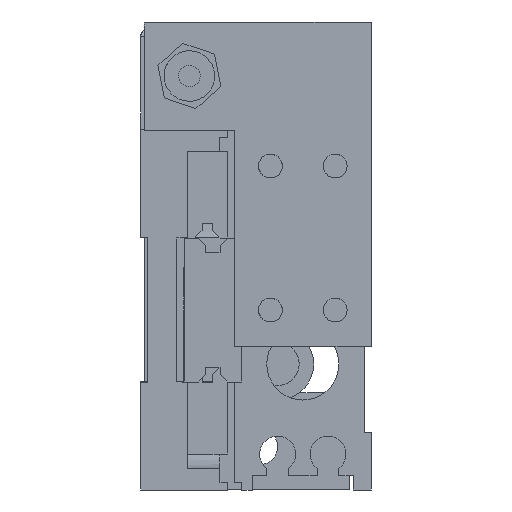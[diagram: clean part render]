
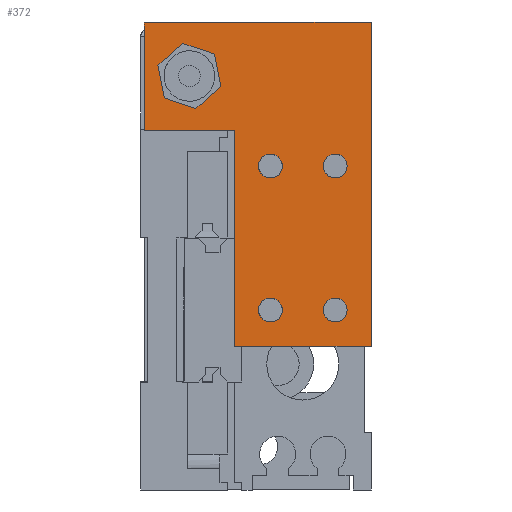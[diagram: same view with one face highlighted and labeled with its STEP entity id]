
A CAD part, left-side view. The second image highlights one B-rep face of the part: STEP entity #372.
In plain terms, the highlighted planar face has unit normal (-1, 0, 0) as drawn and (0, 0, 1) by its records, which use the part's own axes.
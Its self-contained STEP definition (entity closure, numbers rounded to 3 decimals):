
#212 = VERTEX_POINT ( 'NONE', #15446 ) ;
#227 = VERTEX_POINT ( 'NONE', #15495 ) ;
#233 = VERTEX_POINT ( 'NONE', #15484 ) ;
#273 = VERTEX_POINT ( 'NONE', #15533 ) ;
#274 = VERTEX_POINT ( 'NONE', #15540 ) ;
#276 = EDGE_CURVE ( 'NONE', #4628, #274, #15594, .T. ) ;
#277 = VERTEX_POINT ( 'NONE', #15592 ) ;
#280 = VERTEX_POINT ( 'NONE', #15580 ) ;
#282 = EDGE_CURVE ( 'NONE', #233, #227, #15584, .T. ) ;
#286 = EDGE_CURVE ( 'NONE', #273, #289, #15565, .T. ) ;
#289 = VERTEX_POINT ( 'NONE', #15613 ) ;
#304 = VERTEX_POINT ( 'NONE', #15685 ) ;
#308 = EDGE_CURVE ( 'NONE', #280, #277, #15683, .T. ) ;
#328 = VERTEX_POINT ( 'NONE', #15721 ) ;
#330 = VERTEX_POINT ( 'NONE', #15686 ) ;
#339 = EDGE_CURVE ( 'NONE', #304, #328, #15694, .T. ) ;
#342 = EDGE_CURVE ( 'NONE', #328, #330, #15739, .T. ) ;
#347 = EDGE_CURVE ( 'NONE', #212, #304, #15735, .T. ) ;
#356 = ORIENTED_EDGE ( 'NONE', *, *, #308, .F. ) ;
#364 = EDGE_CURVE ( 'NONE', #330, #365, #15758, .T. ) ;
#365 = VERTEX_POINT ( 'NONE', #15754 ) ;
#369 = EDGE_CURVE ( 'NONE', #365, #371, #15800, .T. ) ;
#371 = VERTEX_POINT ( 'NONE', #15797 ) ;
#372 = ADVANCED_FACE ( 'NONE', ( #15808, #15795, #15796, #15760, #15803, #15877 ), #15770, .T. ) ;
#373 = ORIENTED_EDGE ( 'NONE', *, *, #393, .F. ) ;
#374 = ORIENTED_EDGE ( 'NONE', *, *, #4699, .F. ) ;
#386 = ORIENTED_EDGE ( 'NONE', *, *, #276, .F. ) ;
#391 = EDGE_LOOP ( 'NONE', ( #398, #400 ) ) ;
#392 = EDGE_LOOP ( 'NONE', ( #411, #386 ) ) ;
#393 = EDGE_CURVE ( 'NONE', #4606, #4704, #15914, .T. ) ;
#396 = EDGE_LOOP ( 'NONE', ( #413, #397, #407, #412, #417, #401 ) ) ;
#397 = ORIENTED_EDGE ( 'NONE', *, *, #339, .T. ) ;
#398 = ORIENTED_EDGE ( 'NONE', *, *, #416, .F. ) ;
#400 = ORIENTED_EDGE ( 'NONE', *, *, #286, .F. ) ;
#401 = ORIENTED_EDGE ( 'NONE', *, *, #402, .T. ) ;
#402 = EDGE_CURVE ( 'NONE', #371, #212, #15916, .T. ) ;
#403 = EDGE_LOOP ( 'NONE', ( #415, #410 ) ) ;
#404 = ORIENTED_EDGE ( 'NONE', *, *, #421, .F. ) ;
#405 = EDGE_LOOP ( 'NONE', ( #373, #374 ) ) ;
#406 = EDGE_CURVE ( 'NONE', #274, #4628, #15917, .T. ) ;
#407 = ORIENTED_EDGE ( 'NONE', *, *, #342, .T. ) ;
#409 = EDGE_CURVE ( 'NONE', #227, #233, #15895, .T. ) ;
#410 = ORIENTED_EDGE ( 'NONE', *, *, #282, .F. ) ;
#411 = ORIENTED_EDGE ( 'NONE', *, *, #406, .F. ) ;
#412 = ORIENTED_EDGE ( 'NONE', *, *, #364, .T. ) ;
#413 = ORIENTED_EDGE ( 'NONE', *, *, #347, .T. ) ;
#415 = ORIENTED_EDGE ( 'NONE', *, *, #409, .F. ) ;
#416 = EDGE_CURVE ( 'NONE', #289, #273, #15604, .T. ) ;
#417 = ORIENTED_EDGE ( 'NONE', *, *, #369, .T. ) ;
#421 = EDGE_CURVE ( 'NONE', #277, #280, #15957, .T. ) ;
#422 = EDGE_LOOP ( 'NONE', ( #404, #356 ) ) ;
#4606 = VERTEX_POINT ( 'NONE', #29159 ) ;
#4628 = VERTEX_POINT ( 'NONE', #29199 ) ;
#4699 = EDGE_CURVE ( 'NONE', #4704, #4606, #29347, .T. ) ;
#4704 = VERTEX_POINT ( 'NONE', #29359 ) ;
#15065 = DIRECTION ( 'NONE',  ( 0., 0., 1. ) ) ;
#15367 = DIRECTION ( 'NONE',  ( 1., 0., 0. ) ) ;
#15446 = CARTESIAN_POINT ( 'NONE',  ( -15., 9.5, 8. ) ) ;
#15484 = CARTESIAN_POINT ( 'NONE',  ( -11.65, -4.5, 8. ) ) ;
#15495 = CARTESIAN_POINT ( 'NONE',  ( -8.35, -4.5, 8. ) ) ;
#15533 = CARTESIAN_POINT ( 'NONE',  ( -11.65, 4.5, 8. ) ) ;
#15540 = CARTESIAN_POINT ( 'NONE',  ( 11.65, -4.5, 8. ) ) ;
#15562 = DIRECTION ( 'NONE',  ( 1., 0., 0. ) ) ;
#15563 = DIRECTION ( 'NONE',  ( 0., 0., 1. ) ) ;
#15564 = AXIS2_PLACEMENT_3D ( 'NONE', #15586, #15563, #15562 ) ;
#15565 = CIRCLE ( 'NONE', #15564, 1.65 ) ;
#15571 = DIRECTION ( 'NONE',  ( 1., 0., 0. ) ) ;
#15572 = DIRECTION ( 'NONE',  ( 0., 0., 1. ) ) ;
#15573 = CARTESIAN_POINT ( 'NONE',  ( -10., -4.5, 8. ) ) ;
#15580 = CARTESIAN_POINT ( 'NONE',  ( 8.35, 4.5, 8. ) ) ;
#15584 = CIRCLE ( 'NONE', #15593, 1.65 ) ;
#15586 = CARTESIAN_POINT ( 'NONE',  ( -10., 4.5, 8. ) ) ;
#15588 = DIRECTION ( 'NONE',  ( 1., 0., 0. ) ) ;
#15589 = DIRECTION ( 'NONE',  ( 0., 0., 1. ) ) ;
#15590 = CARTESIAN_POINT ( 'NONE',  ( 10., -4.5, 8. ) ) ;
#15591 = AXIS2_PLACEMENT_3D ( 'NONE', #15590, #15589, #15588 ) ;
#15592 = CARTESIAN_POINT ( 'NONE',  ( 11.65, 4.5, 8. ) ) ;
#15593 = AXIS2_PLACEMENT_3D ( 'NONE', #15573, #15572, #15571 ) ;
#15594 = CIRCLE ( 'NONE', #15591, 1.65 ) ;
#15601 = CARTESIAN_POINT ( 'NONE',  ( -10., 4.5, 8. ) ) ;
#15602 = AXIS2_PLACEMENT_3D ( 'NONE', #15601, #15065, #15367 ) ;
#15604 = CIRCLE ( 'NONE', #15602, 1.65 ) ;
#15613 = CARTESIAN_POINT ( 'NONE',  ( -8.35, 4.5, 8. ) ) ;
#15669 = DIRECTION ( 'NONE',  ( 1., 0., 0. ) ) ;
#15670 = DIRECTION ( 'NONE',  ( 0., 0., 1. ) ) ;
#15671 = AXIS2_PLACEMENT_3D ( 'NONE', #15684, #15670, #15669 ) ;
#15683 = CIRCLE ( 'NONE', #15671, 1.65 ) ;
#15684 = CARTESIAN_POINT ( 'NONE',  ( 10., 4.5, 8. ) ) ;
#15685 = CARTESIAN_POINT ( 'NONE',  ( -15., -9.5, 8. ) ) ;
#15686 = CARTESIAN_POINT ( 'NONE',  ( 30., 22., 8. ) ) ;
#15694 = LINE ( 'NONE', #15702, #15747 ) ;
#15701 = DIRECTION ( 'NONE',  ( 1., 0., 0. ) ) ;
#15702 = CARTESIAN_POINT ( 'NONE',  ( -15., -9.5, 8. ) ) ;
#15721 = CARTESIAN_POINT ( 'NONE',  ( 30., -9.5, 8. ) ) ;
#15735 = LINE ( 'NONE', #15746, #15745 ) ;
#15736 = DIRECTION ( 'NONE',  ( 0., 1., 0. ) ) ;
#15737 = VECTOR ( 'NONE', #15736, 1000. ) ;
#15738 = CARTESIAN_POINT ( 'NONE',  ( 30., 22., 8. ) ) ;
#15739 = LINE ( 'NONE', #15738, #15737 ) ;
#15744 = DIRECTION ( 'NONE',  ( 0., -1., 0. ) ) ;
#15745 = VECTOR ( 'NONE', #15744, 1000. ) ;
#15746 = CARTESIAN_POINT ( 'NONE',  ( -15., 9.5, 8. ) ) ;
#15747 = VECTOR ( 'NONE', #15701, 1000. ) ;
#15754 = CARTESIAN_POINT ( 'NONE',  ( 15., 22., 8. ) ) ;
#15757 = CARTESIAN_POINT ( 'NONE',  ( 15., 22., 8. ) ) ;
#15758 = LINE ( 'NONE', #15757, #15810 ) ;
#15760 = FACE_OUTER_BOUND ( 'NONE', #396, .T. ) ;
#15769 = CARTESIAN_POINT ( 'NONE',  ( 15., 9.5, 8. ) ) ;
#15770 = PLANE ( 'NONE',  #15878 ) ;
#15795 = FACE_BOUND ( 'NONE', #422, .T. ) ;
#15796 = FACE_BOUND ( 'NONE', #391, .T. ) ;
#15797 = CARTESIAN_POINT ( 'NONE',  ( 15., 9.5, 8. ) ) ;
#15799 = CARTESIAN_POINT ( 'NONE',  ( -15., -9.5, 8. ) ) ;
#15800 = LINE ( 'NONE', #15769, #15807 ) ;
#15803 = FACE_BOUND ( 'NONE', #403, .T. ) ;
#15806 = DIRECTION ( 'NONE',  ( 0., -1., 0. ) ) ;
#15807 = VECTOR ( 'NONE', #15806, 1000. ) ;
#15808 = FACE_BOUND ( 'NONE', #405, .T. ) ;
#15809 = DIRECTION ( 'NONE',  ( -1., 0., 0. ) ) ;
#15810 = VECTOR ( 'NONE', #15809, 1000. ) ;
#15870 = DIRECTION ( 'NONE',  ( 1., 0., 0. ) ) ;
#15871 = DIRECTION ( 'NONE',  ( 0., 0., 1. ) ) ;
#15877 = FACE_BOUND ( 'NONE', #392, .T. ) ;
#15878 = AXIS2_PLACEMENT_3D ( 'NONE', #15799, #15871, #15870 ) ;
#15885 = DIRECTION ( 'NONE',  ( 1., 0., 0. ) ) ;
#15886 = DIRECTION ( 'NONE',  ( 0., 0., 1. ) ) ;
#15887 = CARTESIAN_POINT ( 'NONE',  ( -10., -4.5, 8. ) ) ;
#15888 = AXIS2_PLACEMENT_3D ( 'NONE', #15887, #15886, #15885 ) ;
#15892 = DIRECTION ( 'NONE',  ( 1., 0., 0. ) ) ;
#15893 = DIRECTION ( 'NONE',  ( 0., 0., 1. ) ) ;
#15895 = CIRCLE ( 'NONE', #15888, 1.65 ) ;
#15897 = AXIS2_PLACEMENT_3D ( 'NONE', #15906, #15893, #15892 ) ;
#15906 = CARTESIAN_POINT ( 'NONE',  ( 10., -4.5, 8. ) ) ;
#15908 = DIRECTION ( 'NONE',  ( 1., 0., 0. ) ) ;
#15909 = DIRECTION ( 'NONE',  ( 0., 0., 1. ) ) ;
#15911 = CARTESIAN_POINT ( 'NONE',  ( 22.5, 15.75, 8. ) ) ;
#15913 = AXIS2_PLACEMENT_3D ( 'NONE', #15911, #15909, #15908 ) ;
#15914 = CIRCLE ( 'NONE', #15913, 3.5 ) ;
#15915 = CARTESIAN_POINT ( 'NONE',  ( -15., 9.5, 8. ) ) ;
#15916 = LINE ( 'NONE', #15915, #15919 ) ;
#15917 = CIRCLE ( 'NONE', #15897, 1.65 ) ;
#15918 = DIRECTION ( 'NONE',  ( -1., 0., 0. ) ) ;
#15919 = VECTOR ( 'NONE', #15918, 1000. ) ;
#15944 = DIRECTION ( 'NONE',  ( 1., 0., 0. ) ) ;
#15945 = DIRECTION ( 'NONE',  ( 0., 0., 1. ) ) ;
#15946 = CARTESIAN_POINT ( 'NONE',  ( 10., 4.5, 8. ) ) ;
#15947 = AXIS2_PLACEMENT_3D ( 'NONE', #15946, #15945, #15944 ) ;
#15957 = CIRCLE ( 'NONE', #15947, 1.65 ) ;
#29159 = CARTESIAN_POINT ( 'NONE',  ( 26., 15.75, 8. ) ) ;
#29199 = CARTESIAN_POINT ( 'NONE',  ( 8.35, -4.5, 8. ) ) ;
#29244 = CARTESIAN_POINT ( 'NONE',  ( 22.5, 15.75, 8. ) ) ;
#29343 = DIRECTION ( 'NONE',  ( 1., 0., 0. ) ) ;
#29347 = CIRCLE ( 'NONE', #29354, 3.5 ) ;
#29353 = DIRECTION ( 'NONE',  ( 0., 0., 1. ) ) ;
#29354 = AXIS2_PLACEMENT_3D ( 'NONE', #29244, #29353, #29343 ) ;
#29359 = CARTESIAN_POINT ( 'NONE',  ( 19., 15.75, 8. ) ) ;
